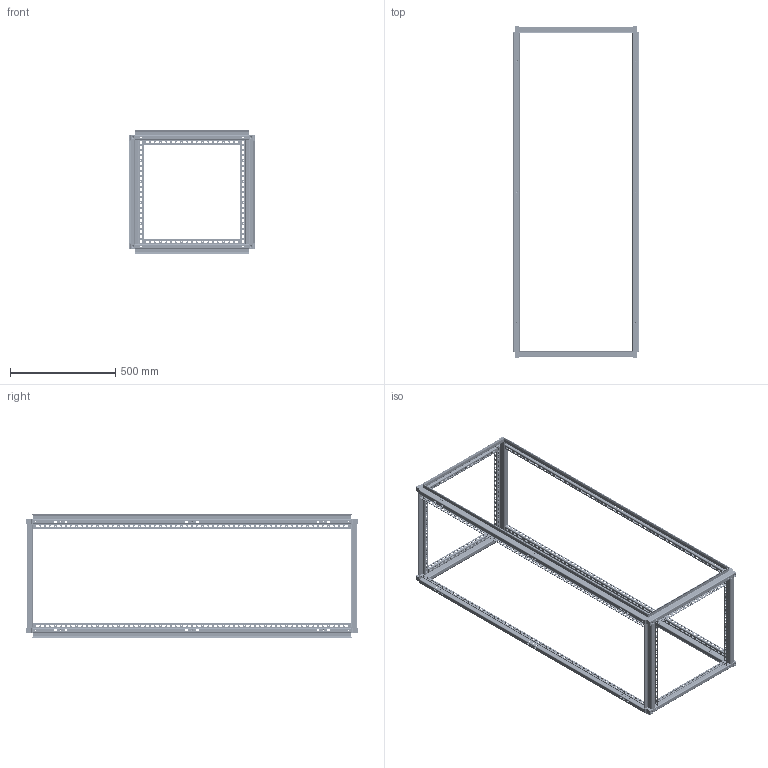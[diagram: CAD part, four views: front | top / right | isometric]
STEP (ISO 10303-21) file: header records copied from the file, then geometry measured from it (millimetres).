
FILE_DESCRIPTION (( 'STEP AP203' ), '1' );
FILE_NAME ('pf1666.STEP', '2010-04-15T15:25:58', ( 'Hoffman User' ), ( 'Hoffman Enclosures' ), 'SwSTEP 2.0', 'SolidWorks 2009', '' );
FILE_SCHEMA (( 'CONFIG_CONTROL_DESIGN' ));
Length unit declared in the file: inch
Products named in the file (7): 30127058; 30127077; pf1666; 20127036; 60127013; 30127006; 60127024_As installed
Assembly tree (33 placements, depth 3):
  pf1666
    60127024_As installed  x12
    20127036
      30127077  x4
      60127013  x8
      30127006  x4
      30127058  x4
Bounding box: 598.8 x 1580 x 587.8 mm (x, y, z)
Volume: 3166427.3 mm3; surface area: 2696078.2 mm2
Topology: 32 solids, 32 shells, 7972 faces, 23508 edges, 15504 vertices
Faces by surface type: plane 5092, cylinder 2736, torus 96, cone 48
Entity records: 56718 total; most frequent: CARTESIAN_POINT 9693, ORIENTED_EDGE 9466, DIRECTION 9037, EDGE_CURVE 4733, VECTOR 3635, LINE 3635, VERTEX_POINT 3127, AXIS2_PLACEMENT_3D 2701
